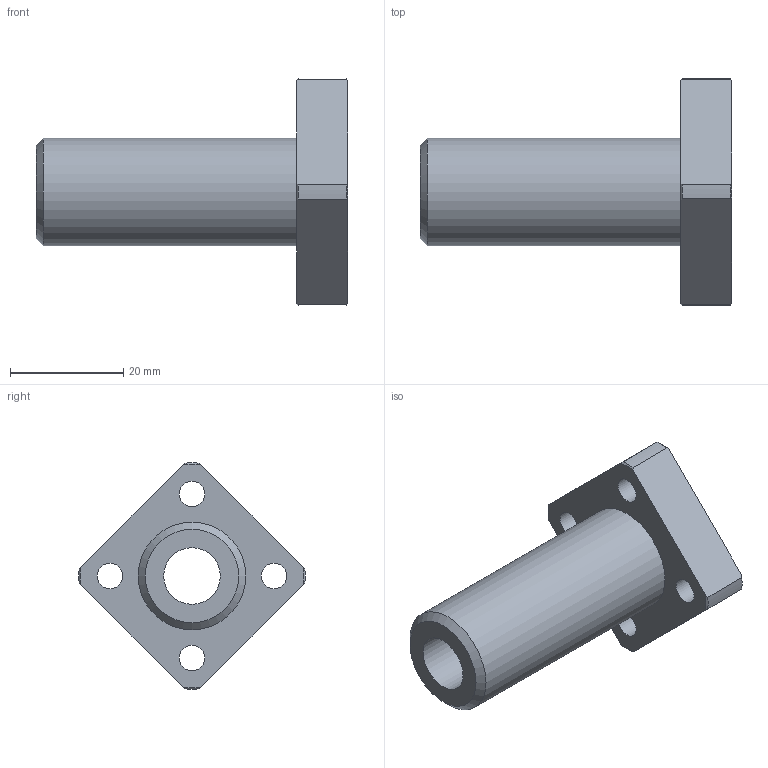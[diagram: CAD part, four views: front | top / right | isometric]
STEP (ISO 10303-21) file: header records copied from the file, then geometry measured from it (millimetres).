
FILE_DESCRIPTION(('STEP AP203'),'1');
FILE_NAME('//192.168.1.1/share/s-4 技術開発/s-4-4_CAD/s-4-4-3_見直し済み/PBC LINEAR修正済み/DFPJ/DFPJ_TOP/DFPJ/DFPJ10.step','2022-03-24T05:06:12',(' '),(' '),'Spatial InterOp 3D',' ',' ');
FILE_SCHEMA(('CONFIG_CONTROL_DESIGN'));
Length unit declared in the file: millimetre
Products named in the file (1): 1
Bounding box: 55 x 39.99 x 39.99 mm (x, y, z)
Volume: 15687 mm3; surface area: 7634.2 mm2
Topology: 1 solids, 1 shells, 34 faces, 86 edges, 59 vertices
Faces by surface type: cylinder 14, plane 11, cone 9
Full cylindrical faces by diameter (mm): 4.5 x4, 7.5 x4, 10 x1, 19 x1
Entity records: 1018 total; most frequent: CARTESIAN_POINT 205, DIRECTION 160, ORIENTED_EDGE 138, AXIS2_PLACEMENT_3D 72, EDGE_CURVE 69, EDGE_LOOP 60, VERTEX_POINT 53, FACE_OUTER_BOUND 44
